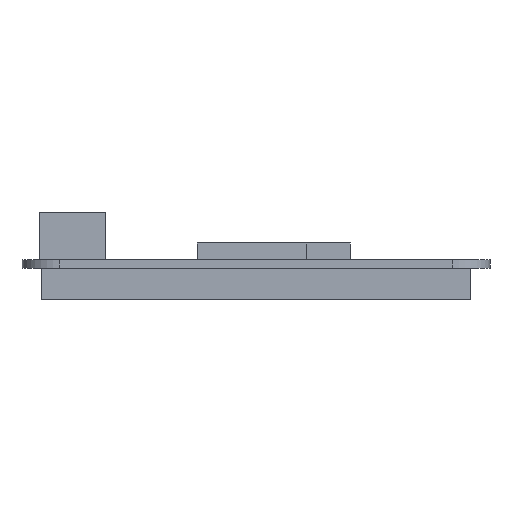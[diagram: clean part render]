
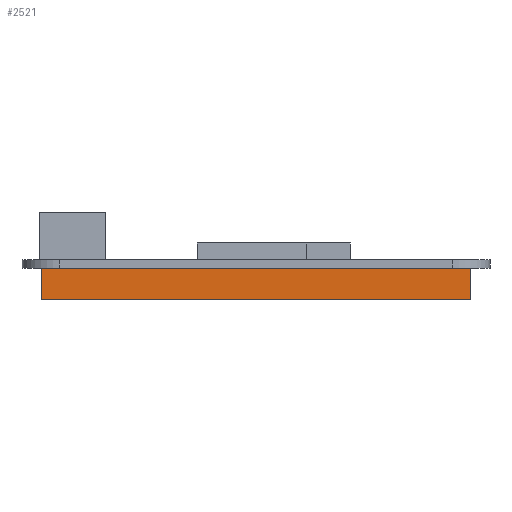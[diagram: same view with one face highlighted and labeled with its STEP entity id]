
A CAD part, left-side view. The second image highlights one B-rep face of the part: STEP entity #2521.
In plain terms, the highlighted planar face has unit normal (-1, 0, 0).
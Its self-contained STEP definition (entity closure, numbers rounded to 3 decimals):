
#512=DIRECTION('',(0.,1.,0.));
#513=VECTOR('',#512,8.481);
#514=CARTESIAN_POINT('',(553.145,264.175,-1.));
#515=LINE('',#514,#513);
#528=DIRECTION('',(0.,1.,0.));
#529=VECTOR('',#528,23.876);
#530=CARTESIAN_POINT('',(553.145,277.736,-1.));
#531=LINE('',#530,#529);
#544=DIRECTION('',(0.,1.,0.));
#545=VECTOR('',#544,8.483);
#546=CARTESIAN_POINT('',(553.145,306.692,-1.));
#547=LINE('',#546,#545);
#712=DIRECTION('',(0.,0.,-1.));
#713=VECTOR('',#712,3.7);
#714=CARTESIAN_POINT('',(553.145,315.175,-1.));
#715=LINE('',#714,#713);
#716=DIRECTION('',(0.,0.,-1.));
#717=VECTOR('',#716,3.7);
#718=CARTESIAN_POINT('',(553.145,264.175,-1.));
#719=LINE('',#718,#717);
#732=DIRECTION('',(0.,1.,0.));
#733=VECTOR('',#732,51.);
#734=CARTESIAN_POINT('',(553.145,264.175,-4.7));
#735=LINE('',#734,#733);
#796=DIRECTION('',(0.,1.,0.));
#797=VECTOR('',#796,5.08);
#798=CARTESIAN_POINT('',(553.145,272.656,-1.));
#799=LINE('',#798,#797);
#800=DIRECTION('',(0.,1.,0.));
#801=VECTOR('',#800,5.08);
#802=CARTESIAN_POINT('',(553.145,301.612,-1.));
#803=LINE('',#802,#801);
#1362=CARTESIAN_POINT('',(553.145,264.175,-4.7));
#1363=VERTEX_POINT('',#1362);
#1364=CARTESIAN_POINT('',(553.145,315.175,-4.7));
#1365=VERTEX_POINT('',#1364);
#1379=CARTESIAN_POINT('',(553.145,264.175,-1.));
#1381=VERTEX_POINT('',#1379);
#1382=CARTESIAN_POINT('',(553.145,272.656,-1.));
#1383=VERTEX_POINT('',#1382);
#1384=CARTESIAN_POINT('',(553.145,277.736,-1.));
#1385=CARTESIAN_POINT('',(553.145,301.612,-1.));
#1386=VERTEX_POINT('',#1384);
#1387=VERTEX_POINT('',#1385);
#1388=CARTESIAN_POINT('',(553.145,306.692,-1.));
#1389=CARTESIAN_POINT('',(553.145,315.175,-1.));
#1390=VERTEX_POINT('',#1388);
#1391=VERTEX_POINT('',#1389);
#2502=CARTESIAN_POINT('',(553.145,264.175,-1.));
#2503=DIRECTION('',(-1.,0.,0.));
#2504=DIRECTION('',(0.,1.,0.));
#2505=AXIS2_PLACEMENT_3D('',#2502,#2503,#2504);
#2506=PLANE('',#2505);
#2507=ORIENTED_EDGE('',*,*,#1846,.F.);
#2509=ORIENTED_EDGE('',*,*,#2508,.T.);
#2511=ORIENTED_EDGE('',*,*,#2510,.T.);
#2512=ORIENTED_EDGE('',*,*,#2481,.F.);
#2513=ORIENTED_EDGE('',*,*,#1862,.F.);
#2515=ORIENTED_EDGE('',*,*,#2514,.F.);
#2516=ORIENTED_EDGE('',*,*,#1854,.F.);
#2518=ORIENTED_EDGE('',*,*,#2517,.F.);
#2519=EDGE_LOOP('',(#2507,#2509,#2511,#2512,#2513,#2515,#2516,#2518));
#2520=FACE_OUTER_BOUND('',#2519,.F.);
#1846=EDGE_CURVE('',#1381,#1383,#515,.T.);
#1854=EDGE_CURVE('',#1386,#1387,#531,.T.);
#1862=EDGE_CURVE('',#1390,#1391,#547,.T.);
#2481=EDGE_CURVE('',#1391,#1365,#715,.T.);
#2508=EDGE_CURVE('',#1381,#1363,#719,.T.);
#2510=EDGE_CURVE('',#1363,#1365,#735,.T.);
#2514=EDGE_CURVE('',#1387,#1390,#803,.T.);
#2517=EDGE_CURVE('',#1383,#1386,#799,.T.);
#2521=ADVANCED_FACE('',(#2520),#2506,.T.);
